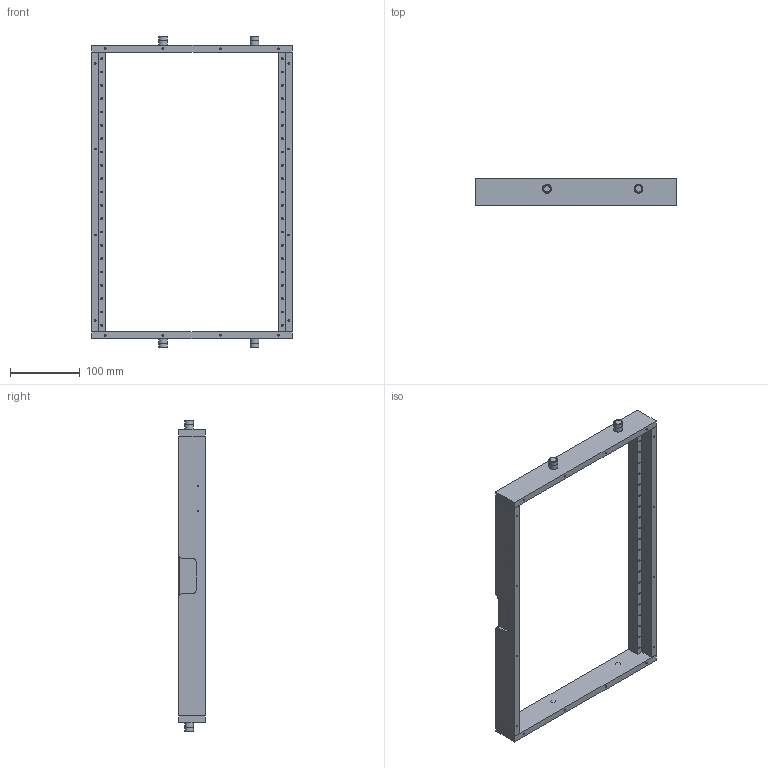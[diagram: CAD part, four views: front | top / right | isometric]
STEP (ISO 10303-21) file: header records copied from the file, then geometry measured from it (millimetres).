
FILE_DESCRIPTION((''),'2;1');
FILE_NAME('C:\old_Drawings\shrinkwrapped website .stp files\7521211-STP.stp','2011-08-01T09:48:53',('GaryRobinson'),(''),'Autodesk Inventor 2011','Autodesk Inventor 2011','');
FILE_SCHEMA(('CONFIG_CONTROL_DESIGN'));
Length unit declared in the file: inch
Products named in the file (1): 7521211-STP
Bounding box: 286.51 x 38.1 x 446.02 mm (x, y, z)
Surface area: 162247.3 mm2 (no closed solid volume)
Topology: 0 solids, 16 shells, 258 faces, 556 edges, 350 vertices
Faces by surface type: plane 102, cylinder 90, cone 66
Full cylindrical faces by diameter (mm): 2.54 x58, 7.747 x4, 8.014 x4, 9.271 x4, 9.462 x4, 11.1 x4, 12.675 x8
Entity records: 6008 total; most frequent: DIRECTION 1052, CARTESIAN_POINT 909, ORIENTED_EDGE 700, AXIS2_PLACEMENT_3D 447, EDGE_LOOP 426, EDGE_CURVE 350, VERTEX_POINT 292, FACE_OUTER_BOUND 258
